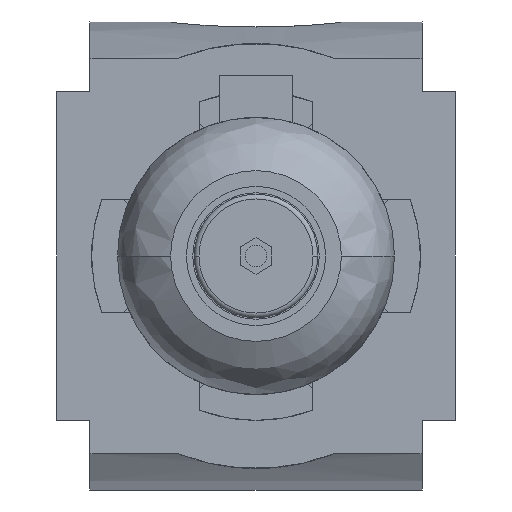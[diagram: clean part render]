
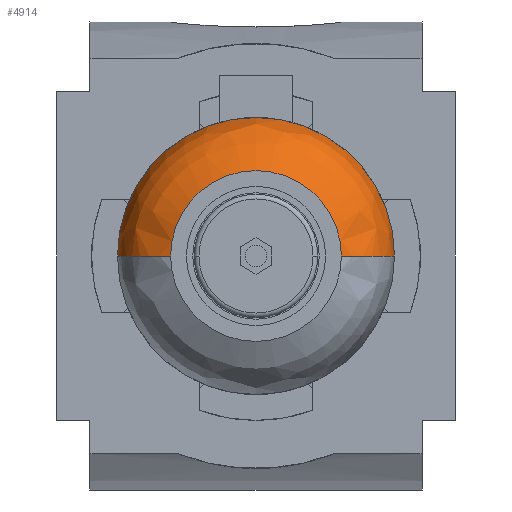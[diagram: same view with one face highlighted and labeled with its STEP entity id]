
A CAD part, front view. The second image highlights one B-rep face of the part: STEP entity #4914.
In plain terms, the highlighted free-form (B-spline) face has degree [3, 3] with [7, 4] control points.
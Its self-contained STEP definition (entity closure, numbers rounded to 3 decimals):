
#4030=CARTESIAN_POINT('',(0.,-111.947,0.));
#4031=DIRECTION('',(0.,-1.,0.));
#4032=DIRECTION('',(1.,0.,0.));
#4033=AXIS2_PLACEMENT_3D('',#4030,#4031,#4032);
#4035=CARTESIAN_POINT('',(9.9,-100.5,0.));
#4036=DIRECTION('',(0.,0.,1.));
#4037=DIRECTION('',(0.3,-0.954,0.));
#4038=AXIS2_PLACEMENT_3D('',#4035,#4036,#4037);
#4040=CARTESIAN_POINT('',(-9.9,-100.5,0.));
#4041=DIRECTION('',(0.,0.,-1.));
#4042=DIRECTION('',(-0.3,-0.954,0.));
#4043=AXIS2_PLACEMENT_3D('',#4040,#4041,#4042);
#4117=CARTESIAN_POINT('',(0.,-100.5,0.));
#4118=DIRECTION('',(0.,-1.,0.));
#4119=DIRECTION('',(1.,0.,0.));
#4120=AXIS2_PLACEMENT_3D('',#4117,#4118,#4119);
#4603=CARTESIAN_POINT('',(13.5,-111.947,0.));
#4605=VERTEX_POINT('',#4603);
#4606=CARTESIAN_POINT('',(21.9,-100.5,0.));
#4607=VERTEX_POINT('',#4606);
#4611=CARTESIAN_POINT('',(-13.5,-111.947,0.));
#4613=VERTEX_POINT('',#4611);
#4614=CARTESIAN_POINT('',(-21.9,-100.5,0.));
#4615=VERTEX_POINT('',#4614);
#4876=CARTESIAN_POINT('',(21.853,-100.196,
-1.375));
#4877=CARTESIAN_POINT('',(21.997,-105.881,
-1.384));
#4878=CARTESIAN_POINT('',(18.639,-110.467,
-1.173));
#4879=CARTESIAN_POINT('',(13.183,-112.035,
-0.829));
#4880=CARTESIAN_POINT('',(22.699,-100.196,12.073));
#4881=CARTESIAN_POINT('',(22.848,-105.881,12.153));
#4882=CARTESIAN_POINT('',(19.36,-110.467,10.298));
#4883=CARTESIAN_POINT('',(13.693,-112.035,7.283));
#4884=CARTESIAN_POINT('',(13.475,-100.196,21.896));
#4885=CARTESIAN_POINT('',(13.563,-105.881,22.04));
#4886=CARTESIAN_POINT('',(11.493,-110.467,18.676));
#4887=CARTESIAN_POINT('',(8.129,-112.035,13.209));
#4888=CARTESIAN_POINT('',(0.,-100.196,21.896));
#4889=CARTESIAN_POINT('',(0.,-105.881,22.04));
#4890=CARTESIAN_POINT('',(0.,-110.467,18.676));
#4891=CARTESIAN_POINT('',(0.,-112.035,13.209));
#4892=CARTESIAN_POINT('',(-13.475,-100.196,
21.896));
#4893=CARTESIAN_POINT('',(-13.563,-105.881,
22.04));
#4894=CARTESIAN_POINT('',(-11.493,-110.467,
18.676));
#4895=CARTESIAN_POINT('',(-8.129,-112.035,
13.209));
#4896=CARTESIAN_POINT('',(-22.699,-100.196,
12.073));
#4897=CARTESIAN_POINT('',(-22.848,-105.881,
12.153));
#4898=CARTESIAN_POINT('',(-19.36,-110.467,
10.298));
#4899=CARTESIAN_POINT('',(-13.693,-112.035,
7.283));
#4900=CARTESIAN_POINT('',(-21.853,-100.196,
-1.375));
#4901=CARTESIAN_POINT('',(-21.997,-105.881,
-1.384));
#4902=CARTESIAN_POINT('',(-18.639,-110.467,
-1.173));
#4903=CARTESIAN_POINT('',(-13.183,-112.035,
-0.829));
#4904=(BOUNDED_SURFACE()B_SPLINE_SURFACE(3,3,((#4876,#4877,#4878,#4879),(#4880,
#4881,#4882,#4883),(#4884,#4885,#4886,#4887),(#4888,#4889,#4890,#4891),(#4892,
#4893,#4894,#4895),(#4896,#4897,#4898,#4899),(#4900,#4901,#4902,#4903)),
.UNSPECIFIED.,.F.,.F.,.F.)B_SPLINE_SURFACE_WITH_KNOTS((4,3,4),(4,4),(0.,1.,
2.),(0.,1.),.UNSPECIFIED.)GEOMETRIC_REPRESENTATION_ITEM()RATIONAL_B_SPLINE_SURFACE(((1.326,1.141,1.141,1.326),(
1.047,0.901,0.901,1.047),(
1.047,0.901,0.901,1.047),(
1.326,1.141,1.141,1.326),(
1.047,0.901,0.901,1.047),(
1.047,0.901,0.901,1.047),(
1.326,1.141,1.141,1.326)))REPRESENTATION_ITEM('')SURFACE());
#4906=ORIENTED_EDGE('',*,*,#4905,.F.);
#4907=ORIENTED_EDGE('',*,*,#4871,.T.);
#4909=ORIENTED_EDGE('',*,*,#4908,.T.);
#4911=ORIENTED_EDGE('',*,*,#4910,.F.);
#4912=EDGE_LOOP('',(#4906,#4907,#4909,#4911));
#4913=FACE_OUTER_BOUND('',#4912,.F.);
#4914=ADVANCED_FACE('',(#4913),#4904,.T.);
#4034=CIRCLE('',#4033,13.5);
#4039=CIRCLE('',#4038,12.);
#4044=CIRCLE('',#4043,12.);
#4121=CIRCLE('',#4120,21.9);
#4871=EDGE_CURVE('',#4605,#4613,#4034,.T.);
#4905=EDGE_CURVE('',#4605,#4607,#4039,.T.);
#4908=EDGE_CURVE('',#4613,#4615,#4044,.T.);
#4910=EDGE_CURVE('',#4607,#4615,#4121,.T.);
